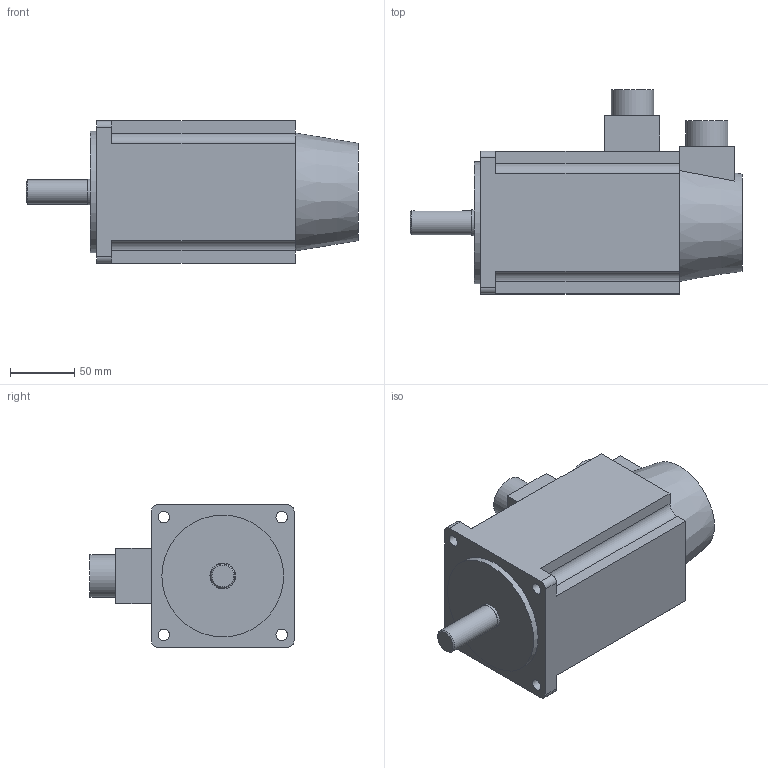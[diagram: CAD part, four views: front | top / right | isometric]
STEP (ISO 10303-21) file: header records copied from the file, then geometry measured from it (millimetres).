
FILE_DESCRIPTION(('STEP AP214'), '1');
FILE_NAME('110ST-M05030 - 栫謼鍱睯蜬蠈錪', '', ('UNSPECIFIED'), ('UNSPECIFIED'), 'ASCON STEP Converter 1.3', 'ASCON Math Kernel', '');
FILE_SCHEMA(('AUTOMOTIVE_DESIGN { 1 0 10303 214 3 1 1}'));
Length unit declared in the file: millimetre
Products named in the file (1): 110ST-M05030
Bounding box: 259 x 159.2 x 111.2 mm (x, y, z)
Volume: 2185837 mm3; surface area: 119509.2 mm2
Topology: 1 solids, 1 shells, 58 faces, 144 edges, 95 vertices
Faces by surface type: plane 37, cylinder 19, cone 2
Full cylindrical faces by diameter (mm): 9 x4, 19 x1, 20 x1, 33 x2, 95 x1
Entity records: 2421 total; most frequent: CARTESIAN_POINT 522, DIRECTION 288, ORIENTED_EDGE 266, EDGE_CURVE 133, AXIS2_PLACEMENT_3D 100, VERTEX_POINT 95, LINE 88, VECTOR 88
